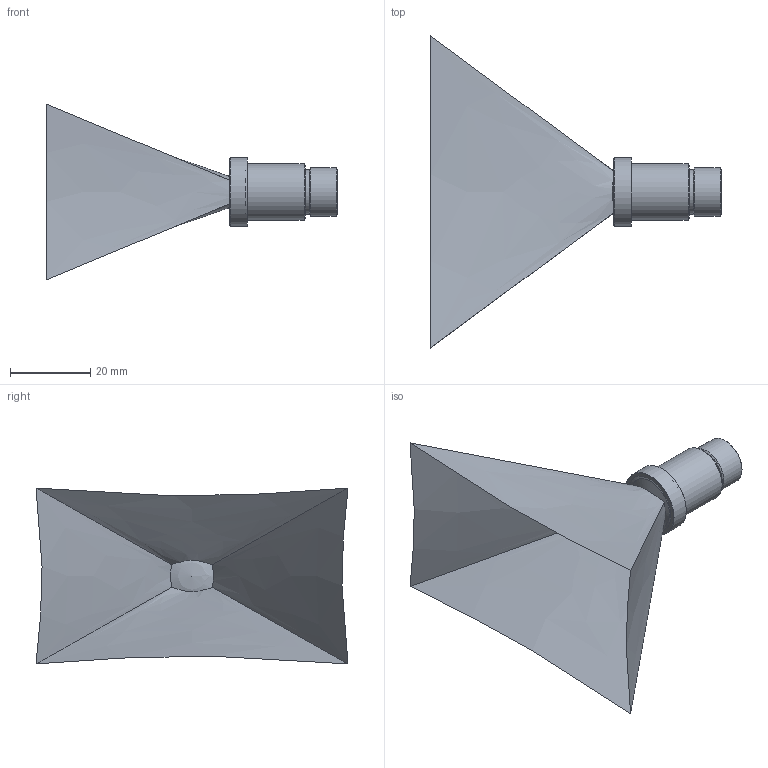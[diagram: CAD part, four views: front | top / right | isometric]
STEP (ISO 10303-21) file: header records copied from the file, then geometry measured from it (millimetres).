
FILE_DESCRIPTION(/* description */ (''),/* implementation_level */ '2;1');
FILE_NAME(/* name */ 'C:\Users\MaxHenkart\Desktop\Commonlands\Product\CIL368\CIL368-F1.8-M12ANIR.stp',/* time_stamp */ '2023-08-07T09:54:57-07:00',/* author */ ('MaxHenkart'),/* organization */ (''),/* preprocessor_version */ 'ST-DEVELOPER v19',/* originating_system */ 'Autodesk Inventor 2023',/* authorisation */ '');
FILE_SCHEMA (('AUTOMOTIVE_DESIGN { 1 0 10303 214 3 1 1 }'));
Length unit declared in the file: millimetre
Products named in the file (1): CIL368
Bounding box: 72.46 x 77.74 x 43.8 mm (x, y, z)
Volume: 4014.8 mm3; surface area: 8774.6 mm2
Topology: 1 solids, 5 shells, 28 faces, 61 edges, 45 vertices
Faces by surface type: cone 8, plane 8, cylinder 7, bspline 4, sphere 1
Full cylindrical faces by diameter (mm): 10 x1, 11.2 x1, 12 x1, 13.4 x1, 14 x1, 16.4 x1, 17 x1
Entity records: 1732 total; most frequent: CARTESIAN_POINT 1072, DIRECTION 131, ORIENTED_EDGE 104, EDGE_CURVE 60, AXIS2_PLACEMENT_3D 54, VERTEX_POINT 45, EDGE_LOOP 35, CIRCLE 29
